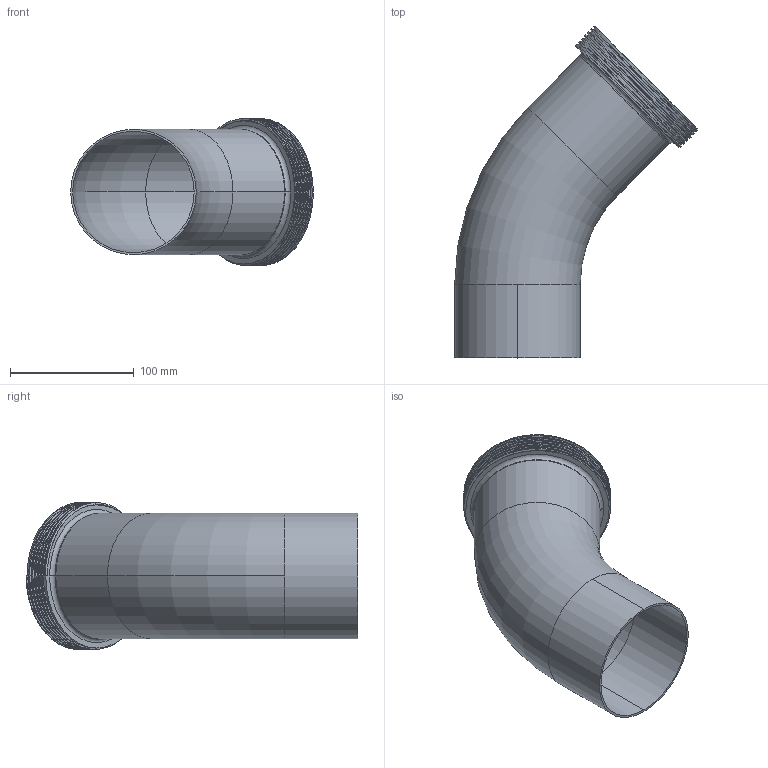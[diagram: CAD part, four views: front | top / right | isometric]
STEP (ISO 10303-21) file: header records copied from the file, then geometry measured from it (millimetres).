
FILE_DESCRIPTION (( 'STEP AP203' ), '1' );
FILE_NAME ('E2KT4.0.STEP', '2018-05-02T16:09:04', ( 'vneprd' ), ( 'Microsoft' ), 'SwSTEP 2.0', 'SolidWorks 2014', '' );
FILE_SCHEMA (( 'CONFIG_CONTROL_DESIGN' ));
Length unit declared in the file: inch
Products named in the file (3): E2KT4.0; 15TR4.0; E2KS4.0
Assembly tree (2 placements, depth 2):
  E2KT4.0
    E2KS4.0
    15TR4.0
Bounding box: 196.41 x 268.64 x 118.87 mm (x, y, z)
Volume: 196557.8 mm3; surface area: 176690.7 mm2
Topology: 2 solids, 2 shells, 45 faces, 110 edges, 70 vertices
Faces by surface type: cylinder 26, plane 7, torus 6, bspline 4, cone 2
Entity records: 3365 total; most frequent: CARTESIAN_POINT 2055, ORIENTED_EDGE 220, DIRECTION 213, EDGE_CURVE 110, AXIS2_PLACEMENT_3D 88, VERTEX_POINT 70, EDGE_LOOP 50, ADVANCED_FACE 45
